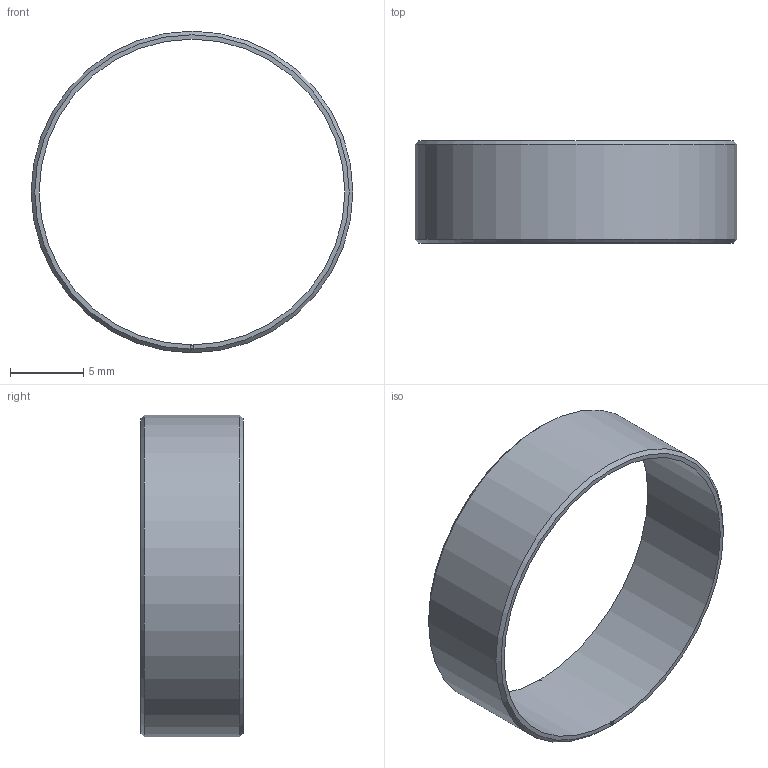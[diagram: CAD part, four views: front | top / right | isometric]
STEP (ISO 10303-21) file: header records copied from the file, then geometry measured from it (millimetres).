
FILE_DESCRIPTION(/* description */ ('STEP AP242 Edition 2','CAx-IF Rec.Pracs.---Representation and Presentation of Product Manufacturing Information (PMI)---4.0---2014-10-13','CAx-IF Rec.Pracs.---3D Tessellated Geometry---0.4---2014-09-14','2;1','CAx-IF Rec.Pracs.---User Defined Attributes---1.5---2016-08-15'),/* implementation_level */ '2;1');
FILE_NAME(/* name */ 'Assembly V2 - Outer (5)',/* time_stamp */ '2026-02-05T22:44:39Z',/* author */ (''),/* organization */ (''),/* preprocessor_version */ 'ST-DEVELOPER v20',/* originating_system */ 'ONSHAPE BY PTC INC, 1.210',/* authorisation */ ' ');
FILE_SCHEMA (('AP242_MANAGED_MODEL_BASED_3D_ENGINEERING_MIM_LF { 1 0 10303 442 3 1 4 }'));
Length unit declared in the file: metre
Products named in the file (1): Outer
Bounding box: 22 x 7 x 22 mm (x, y, z)
Volume: 255.1 mm3; surface area: 997.3 mm2
Topology: 1 solids, 1 shells, 10 faces, 16 edges, 10 vertices
Faces by surface type: cylinder 4, plane 4, cone 2
Full cylindrical faces by diameter (mm): 0.25 x2, 20.9 x1, 22 x1
Entity records: 230 total; most frequent: DIRECTION 42, CARTESIAN_POINT 31, AXIS2_PLACEMENT_3D 21, ORIENTED_EDGE 20, EDGE_LOOP 20, FACE_BOUND 20, EDGE_CURVE 10, VERTEX_POINT 10
